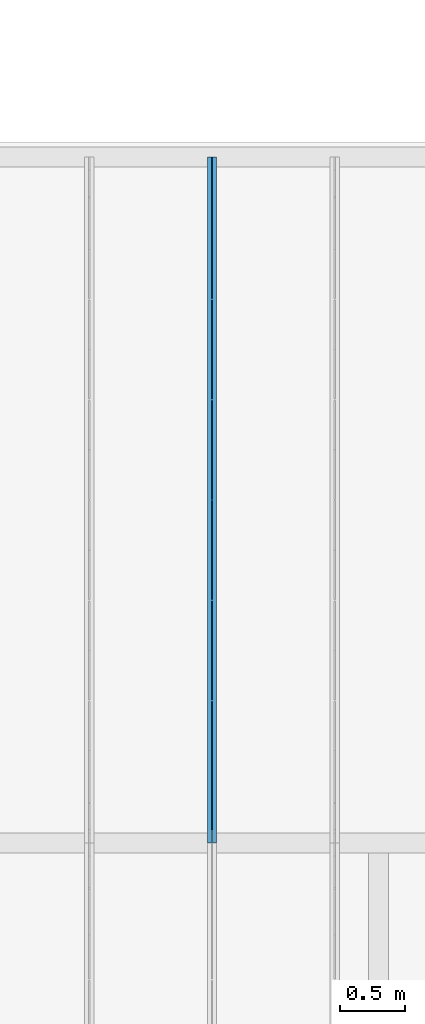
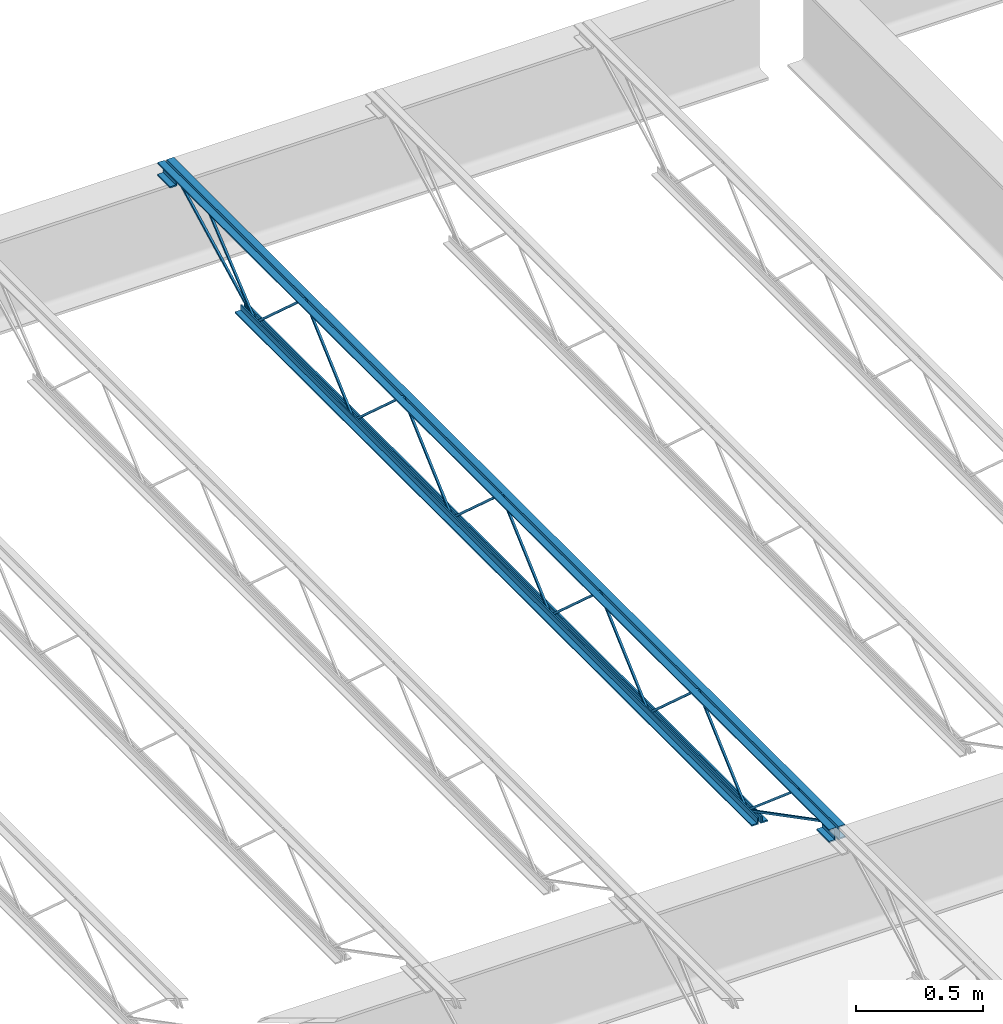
# One storey, part 69 of 75: 1 beam.
"""IFC2X3 building model written with IfcOpenShell, lengths in metres."""

from ifc_helpers import new_model, entity, si_unit, converted_unit, frame, origin, place, context, project, spatial, face_set, surface_model, element, save


model = new_model("IFC2X3")

# Units and contexts
model_context = context("Model", 3, precision=1e-09, world=origin())
plan_context = context("Plan", 3, precision=1e-09, world=origin())
ifc_project = project(units=[si_unit("LENGTHUNIT", "METRE"), si_unit("AREAUNIT", "SQUARE_METRE"), si_unit("VOLUMEUNIT", "CUBIC_METRE"), converted_unit("PLANEANGLEUNIT", "DEGREE", entity("IfcRatioMeasure", 0.01745329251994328), si_unit("PLANEANGLEUNIT", "RADIAN"), dimensions=[0, 0, 0, 0, 0, 0, 0]), si_unit("TIMEUNIT", "SECOND")], contexts=[model_context, plan_context])

# Site, building, storey
site_placement = place(None, origin())
site = spatial("IfcSite", under=ifc_project, at=site_placement, Name="Default", CompositionType="ELEMENT")
building_placement = place(site_placement, origin())
building = spatial("IfcBuilding", under=site, at=building_placement, CompositionType="ELEMENT")
storey_placement = place(building_placement, origin())
storey = spatial("IfcBuildingStorey", under=building, at=storey_placement, Name="First Floor", CompositionType="ELEMENT", Elevation=-3.531500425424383e-13)

# Beam
beam_placement = place(storey_placement, frame((-10.16674062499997, 44.78049999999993, 4.112000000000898), z_axis=(0.0, 0.0, 1.0), x_axis=(-1.0, 0.0, 0.0)))
element("IfcBeam", 1, at=beam_placement, inside=storey, Name="M_K-Series Bar Joist-Rod Web:14K1:14K1", ObjectType="M_K-Series Bar Joist-Rod Web:14K1", context=model_context, shape_type="SurfaceModel", body=[
    surface_model("IfcFaceBasedSurfaceModel", [(-0.0320000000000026, -2.266000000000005, 0.01110000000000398), (-0.04150000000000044, -2.266000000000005, 0.01110000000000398), (-0.04150000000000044, -2.266000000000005, 0.001600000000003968), (-0.0320000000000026, -2.266000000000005, 0.001600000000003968), (-0.04150000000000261, -2.264645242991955, 0.01110000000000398), (-0.0320000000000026, -2.264645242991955, 0.01110000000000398), (-0.04150000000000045, -2.261004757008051, 0.001600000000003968), (-0.04149999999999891, -1.878854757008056, 0.3449000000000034), (-0.04149999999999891, -1.876145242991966, 0.3449000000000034), (-0.04149999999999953, -1.493995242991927, 0.001600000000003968), (-0.04149999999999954, -1.489000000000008, 0.001600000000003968), (-0.04149999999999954, -1.489000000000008, 0.01110000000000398), (-0.04149999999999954, -1.490354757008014, 0.01110000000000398), (-0.04150000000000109, -1.872504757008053, 0.3544000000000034), (-0.04150000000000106, -1.88249524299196, 0.3544000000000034), (-0.03200000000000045, -2.261004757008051, 0.001600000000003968), (-0.03200000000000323, -1.878854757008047, 0.3449000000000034), (-0.03200000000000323, -1.876145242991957, 0.3449000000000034), (-0.0320000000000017, -1.493995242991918, 0.001600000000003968), (-0.03200000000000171, -1.489000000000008, 0.001600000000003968), (-0.03200000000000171, -1.489000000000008, 0.01110000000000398), (-0.0320000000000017, -1.490354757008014, 0.01110000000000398), (-0.03200000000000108, -1.872504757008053, 0.3544000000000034), (-0.03200000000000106, -1.88249524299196, 0.3544000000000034), (-0.03200000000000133, -3.043000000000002, 0.01110000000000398), (-0.04149999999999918, -3.043000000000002, 0.01110000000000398), (-0.04149999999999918, -3.043000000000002, 0.001600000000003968), (-0.03200000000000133, -3.043000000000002, 0.001600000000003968), (-0.04150000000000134, -3.041645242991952, 0.01110000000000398), (-0.03200000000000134, -3.041645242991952, 0.01110000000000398), (-0.04149999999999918, -3.038004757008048, 0.001600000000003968), (-0.0414999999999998, -2.655854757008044, 0.3449000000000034), (-0.04149999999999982, -2.653145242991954, 0.3449000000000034), (-0.04150000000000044, -2.270995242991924, 0.001600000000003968), (-0.04149999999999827, -2.266000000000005, 0.01110000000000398), (-0.04149999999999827, -2.267354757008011, 0.01110000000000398), (-0.04149999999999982, -2.649504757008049, 0.3544000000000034), (-0.0414999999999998, -2.659495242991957, 0.3544000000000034), (-0.03199999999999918, -3.038004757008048, 0.001600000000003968), (-0.03200000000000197, -2.655854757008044, 0.3449000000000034), (-0.03200000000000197, -2.653145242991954, 0.3449000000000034), (-0.03200000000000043, -2.270995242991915, 0.001600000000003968), (-0.03200000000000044, -2.266000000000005, 0.001600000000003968), (-0.0320000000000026, -2.267354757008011, 0.01110000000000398), (-0.03200000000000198, -2.649504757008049, 0.3544000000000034), (-0.03200000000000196, -2.659495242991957, 0.3544000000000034), (-0.03200000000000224, -3.819999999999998, 0.01110000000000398), (-0.04150000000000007, -3.819999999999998, 0.01110000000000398), (-0.04150000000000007, -3.819999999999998, 0.001600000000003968), (-0.03200000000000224, -3.819999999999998, 0.001600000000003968), (-0.04150000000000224, -3.818645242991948, 0.01110000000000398), (-0.03200000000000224, -3.818645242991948, 0.01110000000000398), (-0.04150000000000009, -3.815004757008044, 0.001600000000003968), (-0.0415000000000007, -3.432854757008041, 0.3449000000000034), (-0.04150000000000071, -3.43014524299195, 0.3449000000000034), (-0.04149999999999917, -3.047995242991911, 0.001600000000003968), (-0.04149999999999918, -3.042999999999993, 0.001600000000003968), (-0.04149999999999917, -3.044354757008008, 0.01110000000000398), (-0.04150000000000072, -3.426504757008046, 0.3544000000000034), (-0.0415000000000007, -3.436495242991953, 0.3544000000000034), (-0.03200000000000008, -3.815004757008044, 0.001600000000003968), (-0.03200000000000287, -3.432854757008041, 0.3449000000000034), (-0.03200000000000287, -3.43014524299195, 0.3449000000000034), (-0.03200000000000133, -3.047995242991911, 0.001600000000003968), (-0.03200000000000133, -3.042999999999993, 0.01110000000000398), (-0.03200000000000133, -3.044354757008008, 0.01110000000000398), (-0.03200000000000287, -3.426504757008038, 0.3544000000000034), (-0.03200000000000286, -3.436495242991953, 0.3544000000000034), (-0.03200000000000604, -1.489000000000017, 0.01109999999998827), (-0.04150000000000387, -1.489000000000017, 0.01109999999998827), (-0.04150000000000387, -1.489000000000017, 0.001599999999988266), (-0.03200000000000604, -1.489000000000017, 0.001599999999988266), (-0.04150000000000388, -1.487645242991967, 0.01109999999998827), (-0.03200000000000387, -1.487645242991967, 0.01109999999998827), (-0.04150000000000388, -1.484004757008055, 0.001599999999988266), (-0.04150000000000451, -1.101854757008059, 0.3448999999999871), (-0.04150000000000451, -1.099145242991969, 0.3448999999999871), (-0.04150000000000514, -0.7169952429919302, 0.001599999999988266), (-0.04150000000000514, -0.7120000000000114, 0.001599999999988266), (-0.04150000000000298, -0.7120000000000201, 0.01109999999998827), (-0.04150000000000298, -0.7133547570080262, 0.01109999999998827), (-0.04150000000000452, -1.095504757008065, 0.3543999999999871), (-0.0415000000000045, -1.105495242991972, 0.3543999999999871), (-0.03200000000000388, -1.484004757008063, 0.001599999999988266), (-0.0320000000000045, -1.101854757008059, 0.3448999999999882), (-0.0320000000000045, -1.099145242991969, 0.3448999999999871), (-0.03200000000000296, -0.7169952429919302, 0.001599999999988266), (-0.03200000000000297, -0.7120000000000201, 0.001599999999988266), (-0.0320000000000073, -0.7120000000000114, 0.01109999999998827), (-0.03200000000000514, -0.7133547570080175, 0.01109999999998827), (-0.03200000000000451, -1.095504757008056, 0.3543999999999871), (-0.0320000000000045, -1.105495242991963, 0.3543999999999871), (-0.03200000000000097, -4.596999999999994, 0.01110000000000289), (-0.04149999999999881, -4.596999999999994, 0.01110000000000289), (-0.04149999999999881, -4.596999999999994, 0.001600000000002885), (-0.03200000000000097, -4.596999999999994, 0.001600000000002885), (-0.04150000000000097, -4.595645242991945, 0.01110000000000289), (-0.03200000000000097, -4.595645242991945, 0.01110000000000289), (-0.04149999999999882, -4.592004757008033, 0.001600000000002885), (-0.04149999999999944, -4.209854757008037, 0.3449000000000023), (-0.04149999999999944, -4.207145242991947, 0.3449000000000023), (-0.04150000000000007, -3.824995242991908, 0.001600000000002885), (-0.04150000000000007, -3.819999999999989, 0.001600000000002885), (-0.04149999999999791, -3.819999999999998, 0.01110000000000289), (-0.04149999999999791, -3.821354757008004, 0.01110000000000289), (-0.04149999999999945, -4.203504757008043, 0.3544000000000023), (-0.04149999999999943, -4.21349524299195, 0.3544000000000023), (-0.03199999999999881, -4.592004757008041, 0.001600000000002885), (-0.0320000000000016, -4.209854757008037, 0.3449000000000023), (-0.0320000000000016, -4.207145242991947, 0.3449000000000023), (-0.03200000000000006, -3.824995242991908, 0.001600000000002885), (-0.03200000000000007, -3.819999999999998, 0.001600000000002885), (-0.03200000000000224, -3.819999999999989, 0.01110000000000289), (-0.03200000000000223, -3.821354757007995, 0.01110000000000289), (-0.03200000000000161, -4.203504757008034, 0.3544000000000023), (-0.03200000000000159, -4.21349524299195, 0.3544000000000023), (-0.04150000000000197, 0.0, 0.3559999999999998), (-0.07350000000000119, 0.0, 0.3559999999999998), (-0.07350000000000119, 0.0, 0.349499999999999), (-0.04800000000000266, 0.0, 0.349499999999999), (-0.04800000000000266, 0.0, 0.3239999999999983), (-0.04150000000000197, 0.0, 0.3239999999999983), (-0.03200000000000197, 0.0, 0.3559999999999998), (-0.03200000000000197, 0.0, 0.3239999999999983), (-0.02550000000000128, 0.0, 0.3239999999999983), (-0.02550000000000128, 0.0, 0.349499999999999), (0.0, 0.0, 0.349499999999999), (0.0, 0.0, 0.3559999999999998), (-0.04150000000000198, -5.308999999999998, 0.3559999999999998), (-0.0735000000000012, -5.308999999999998, 0.3559999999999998), (-0.0735000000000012, -5.308999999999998, 0.349499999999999), (-0.04800000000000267, -5.308999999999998, 0.349499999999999), (-0.04800000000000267, -5.308999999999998, 0.3239999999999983), (-0.04150000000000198, -5.308999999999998, 0.3239999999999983), (-0.03200000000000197, -5.308999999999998, 0.3559999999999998), (-0.03200000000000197, -5.308999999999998, 0.3239999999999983), (-0.02550000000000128, -5.308999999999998, 0.3239999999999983), (-0.02550000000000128, -5.308999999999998, 0.349499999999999), (0.0, -5.308999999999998, 0.349499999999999), (0.0, -5.308999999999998, 0.3559999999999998), (-0.03200000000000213, -5.209000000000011, 0.2924999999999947), (0.0, -5.209000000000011, 0.2924999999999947), (0.0, -5.209000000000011, 0.2989999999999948), (-0.02550000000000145, -5.209000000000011, 0.2989999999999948), (-0.02550000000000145, -5.209000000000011, 0.3239999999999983), (-0.03200000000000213, -5.209000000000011, 0.3239999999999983), (-0.07350000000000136, -5.209000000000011, 0.2924999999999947), (-0.04150000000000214, -5.209000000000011, 0.2924999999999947), (-0.04150000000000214, -5.209000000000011, 0.3239999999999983), (-0.04800000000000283, -5.209000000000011, 0.3239999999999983), (-0.04800000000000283, -5.209000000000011, 0.2989999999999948), (-0.07350000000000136, -5.209000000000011, 0.2989999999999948), (-0.03200000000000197, -5.308999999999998, 0.2924999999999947), (0.0, -5.308999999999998, 0.2924999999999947), (0.0, -5.308999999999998, 0.2989999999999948), (-0.02550000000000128, -5.308999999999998, 0.2989999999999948), (-0.0735000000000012, -5.308999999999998, 0.2924999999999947), (-0.04150000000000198, -5.308999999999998, 0.2924999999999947), (-0.04800000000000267, -5.308999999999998, 0.2989999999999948), (-0.0735000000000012, -5.308999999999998, 0.2989999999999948), (-0.04150000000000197, 0.0, 0.2924999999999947), (-0.04800000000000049, 0.0, 0.3239999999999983), (-0.04800000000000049, 0.0, 0.2989999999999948), (-0.07350000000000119, 0.0, 0.2989999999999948), (-0.07350000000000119, 0.0, 0.2924999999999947), (-0.03200000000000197, 0.0, 0.2924999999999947), (0.0, 0.0, 0.2924999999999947), (0.0, 0.0, 0.2989999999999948), (-0.02550000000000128, 0.0, 0.2989999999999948), (-0.04150000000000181, -0.0999999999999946, 0.2924999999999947), (-0.04150000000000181, -0.0999999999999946, 0.3239999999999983), (-0.04800000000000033, -0.0999999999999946, 0.3239999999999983), (-0.04800000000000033, -0.0999999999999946, 0.2989999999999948), (-0.07350000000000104, -0.0999999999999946, 0.2989999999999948), (-0.07350000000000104, -0.0999999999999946, 0.2924999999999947), (-0.03200000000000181, -0.0999999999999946, 0.2924999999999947), (0.0, -0.0999999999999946, 0.2924999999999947), (0.0, -0.0999999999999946, 0.2989999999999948), (-0.02550000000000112, -0.0999999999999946, 0.2989999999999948), (-0.02550000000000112, -0.0999999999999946, 0.3239999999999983), (-0.03200000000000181, -0.0999999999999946, 0.3239999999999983), (-0.04150000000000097, -0.6119999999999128, 0.0), (-0.04150000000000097, -0.6119999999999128, 0.03199999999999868), (-0.04800000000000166, -0.6119999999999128, 0.03199999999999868), (-0.04800000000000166, -0.6119999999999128, 0.006499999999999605), (-0.07350000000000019, -0.6119999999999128, 0.006499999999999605), (-0.07350000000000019, -0.6119999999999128, 0.0), (-0.03200000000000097, -0.6119999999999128, 0.0), (0.0, -0.6119999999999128, 0.0), (0.0, -0.6119999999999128, 0.006499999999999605), (-0.02550000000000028, -0.6119999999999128, 0.006499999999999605), (-0.02550000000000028, -0.6119999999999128, 0.03199999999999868), (-0.03200000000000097, -0.6119999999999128, 0.03199999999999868), (-0.04150000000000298, -4.696999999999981, 0.0), (-0.04150000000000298, -4.696999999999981, 0.03199999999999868), (-0.04800000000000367, -4.696999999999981, 0.03199999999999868), (-0.04800000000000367, -4.696999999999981, 0.006499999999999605), (-0.0735000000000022, -4.696999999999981, 0.006499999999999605), (-0.0735000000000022, -4.696999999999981, 0.0), (-0.03200000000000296, -4.696999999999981, 0.0), (0.0, -4.696999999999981, 0.0), (0.0, -4.696999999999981, 0.006499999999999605), (-0.02550000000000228, -4.696999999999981, 0.006499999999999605), (-0.02550000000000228, -4.696999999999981, 0.03199999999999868), (-0.03200000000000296, -4.696999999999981, 0.03199999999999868), (-0.03199999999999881, -4.594811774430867, 0.01056594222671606), (-0.04149999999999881, -4.594811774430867, 0.01056594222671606), (-0.04149999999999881, -4.599188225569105, 0.002134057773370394), (-0.03200000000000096, -4.599188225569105, 0.002134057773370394), (-0.0319999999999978, -5.207840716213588, 0.3287499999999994), (-0.0319999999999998, -5.308999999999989, 0.3287499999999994), (-0.03200000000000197, -5.308999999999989, 0.3192499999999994), (-0.03200000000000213, -5.210159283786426, 0.3192499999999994), (-0.04149999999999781, -5.210159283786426, 0.3192499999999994), (-0.04149999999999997, -5.207840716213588, 0.3287499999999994), (-0.04149999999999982, -5.308999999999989, 0.3287499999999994), (-0.04149999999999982, -5.308999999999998, 0.3192499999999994), (-0.03200000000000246, -5.005457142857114, 0.341700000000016), (-0.0415000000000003, -5.005457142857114, 0.341700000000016), (-0.0415000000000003, -5.005457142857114, 0.332200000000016), (-0.03200000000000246, -5.005457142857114, 0.332200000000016), (-0.04150000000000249, -4.991034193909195, 0.341700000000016), (-0.03200000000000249, -4.991034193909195, 0.341700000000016), (-0.04150000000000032, -4.99448009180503, 0.332200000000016), (-0.0414999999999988, -4.600045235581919, 0.002704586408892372), (-0.04150000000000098, -4.593954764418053, 0.009995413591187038), (-0.03200000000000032, -4.99448009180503, 0.332200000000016), (-0.03200000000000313, -4.600045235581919, 0.002704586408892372), (-0.03199999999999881, -4.593954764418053, 0.009995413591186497), (-0.03199999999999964, -0.09781177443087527, 0.3197840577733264), (-0.03200000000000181, -0.1021882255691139, 0.3282159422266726), (-0.04150000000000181, -0.1021882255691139, 0.3282159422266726), (-0.04149999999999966, -0.09781177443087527, 0.3197840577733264), (-0.03200000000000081, -0.7098117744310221, 0.002134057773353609), (-0.03200000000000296, -0.7141882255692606, 0.01056594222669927), (-0.04150000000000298, -0.7141882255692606, 0.01056594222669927), (-0.04150000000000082, -0.7098117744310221, 0.002134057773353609), (-0.0319999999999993, -0.3059055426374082, 0.3460340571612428), (-0.03200000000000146, -0.3120658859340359, 0.3532659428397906), (-0.04150000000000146, -0.3120658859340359, 0.3532659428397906), (-0.04149999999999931, -0.3059055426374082, 0.3460340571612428), (-0.03200000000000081, -0.7089198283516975, 0.002734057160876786), (-0.03200000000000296, -0.7150801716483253, 0.009965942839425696), (-0.04150000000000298, -0.7150801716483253, 0.009965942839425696), (-0.04150000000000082, -0.7089198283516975, 0.002734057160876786)], [face_set([[[0, 1, 2, 3]], [[1, 4, 5, 0]], [[2, 6, 7, 8, 9, 10, 11, 12, 13, 14, 4, 1]], [[3, 2, 6, 15]], [[0, 3, 15, 16, 17, 18, 19, 20, 21, 22, 23, 5]], [[4, 5, 23, 14]], [[15, 16, 7, 6]], [[14, 13, 22, 23]], [[16, 7, 8, 17]], [[13, 12, 21, 22]], [[17, 8, 9, 18]], [[20, 11, 10, 19]], [[12, 11, 20, 21]], [[18, 9, 10, 19]]]), face_set([[[24, 25, 26, 27]], [[25, 28, 29, 24]], [[26, 30, 31, 32, 33, 2, 34, 35, 36, 37, 28, 25]], [[27, 26, 30, 38]], [[24, 27, 38, 39, 40, 41, 42, 0, 43, 44, 45, 29]], [[28, 29, 45, 37]], [[38, 39, 31, 30]], [[37, 36, 44, 45]], [[39, 31, 32, 40]], [[36, 35, 43, 44]], [[40, 32, 33, 41]], [[0, 34, 2, 42]], [[35, 34, 0, 43]], [[41, 33, 2, 42]]]), face_set([[[46, 47, 48, 49]], [[47, 50, 51, 46]], [[48, 52, 53, 54, 55, 56, 25, 57, 58, 59, 50, 47]], [[49, 48, 52, 60]], [[46, 49, 60, 61, 62, 63, 27, 64, 65, 66, 67, 51]], [[50, 51, 67, 59]], [[60, 61, 53, 52]], [[59, 58, 66, 67]], [[61, 53, 54, 62]], [[58, 57, 65, 66]], [[62, 54, 55, 63]], [[64, 25, 56, 27]], [[57, 25, 64, 65]], [[63, 55, 56, 27]]]), face_set([[[68, 69, 70, 71]], [[69, 72, 73, 68]], [[70, 74, 75, 76, 77, 78, 79, 80, 81, 82, 72, 69]], [[71, 70, 74, 83]], [[68, 71, 83, 84, 85, 86, 87, 88, 89, 90, 91, 73]], [[72, 73, 91, 82]], [[83, 84, 75, 74]], [[82, 81, 90, 91]], [[84, 75, 76, 85]], [[81, 80, 89, 90]], [[85, 76, 77, 86]], [[88, 79, 78, 87]], [[80, 79, 88, 89]], [[86, 77, 78, 87]]]), face_set([[[92, 93, 94, 95]], [[93, 96, 97, 92]], [[94, 98, 99, 100, 101, 102, 103, 104, 105, 106, 96, 93]], [[95, 94, 98, 107]], [[92, 95, 107, 108, 109, 110, 111, 112, 113, 114, 115, 97]], [[96, 97, 115, 106]], [[107, 108, 99, 98]], [[106, 105, 114, 115]], [[108, 99, 100, 109]], [[105, 104, 113, 114]], [[109, 100, 101, 110]], [[112, 103, 102, 111]], [[104, 103, 112, 113]], [[110, 101, 102, 111]]]), face_set([[[116, 117, 118, 119, 120, 121]], [[122, 123, 124, 125, 126, 127]], [[128, 129, 130, 131, 132, 133]], [[134, 135, 136, 137, 138, 139]], [[121, 116, 128, 133]], [[120, 121, 133, 132]], [[119, 131, 132, 120]], [[118, 119, 131, 130]], [[117, 129, 130, 118]], [[116, 128, 129, 117]], [[127, 139, 134, 122]], [[126, 127, 139, 138]], [[125, 126, 138, 137]], [[124, 125, 137, 136]], [[123, 124, 136, 135]], [[122, 134, 135, 123]]]), face_set([[[140, 141, 142, 143, 144, 145]], [[146, 147, 148, 149, 150, 151]], [[152, 153, 154, 155, 136, 135]], [[156, 157, 133, 132, 158, 159]], [[145, 135, 152, 140]], [[144, 136, 135, 145]], [[143, 144, 136, 155]], [[142, 154, 155, 143]], [[141, 142, 154, 153]], [[140, 141, 153, 152]], [[151, 159, 156, 146]], [[150, 158, 159, 151]], [[149, 132, 158, 150]], [[148, 133, 132, 149]], [[147, 148, 133, 157]], [[146, 147, 157, 156]]]), face_set([[[160, 121, 161, 162, 163, 164]], [[165, 166, 167, 168, 124, 123]], [[169, 170, 171, 172, 173, 174]], [[175, 176, 177, 178, 179, 180]], [[164, 160, 169, 174]], [[163, 173, 174, 164]], [[162, 172, 173, 163]], [[161, 171, 172, 162]], [[121, 170, 171, 161]], [[160, 121, 170, 169]], [[123, 180, 175, 165]], [[124, 179, 180, 123]], [[168, 124, 179, 178]], [[167, 177, 178, 168]], [[166, 167, 177, 176]], [[165, 166, 176, 175]]]), face_set([[[181, 182, 183, 184, 185, 186]], [[187, 188, 189, 190, 191, 192]], [[193, 194, 195, 196, 197, 198]], [[199, 200, 201, 202, 203, 204]], [[186, 181, 193, 198]], [[185, 197, 198, 186]], [[184, 196, 197, 185]], [[183, 195, 196, 184]], [[182, 194, 195, 183]], [[181, 182, 194, 193]], [[192, 204, 199, 187]], [[191, 203, 204, 192]], [[190, 191, 203, 202]], [[189, 201, 202, 190]], [[188, 189, 201, 200]], [[187, 188, 200, 199]]]), face_set([[[205, 206, 207, 208]], [[208, 205, 209, 210, 211, 212]], [[207, 208, 212, 213]], [[206, 214, 215, 216, 213, 207]], [[205, 209, 214, 206]], [[210, 215, 216, 211]], [[213, 212, 211, 216]], [[209, 210, 215, 214]]]), face_set([[[217, 218, 219, 220]], [[218, 221, 222, 217]], [[219, 223, 224, 225, 221, 218]], [[220, 219, 223, 226]], [[217, 220, 226, 227, 228, 222]], [[228, 225, 224, 227]], [[221, 225, 228, 222]], [[226, 223, 224, 227]]]), face_set([[[229, 230, 231, 232]], [[233, 234, 235, 236]], [[232, 236, 233, 229]], [[231, 235, 236, 232]], [[230, 231, 235, 234]], [[229, 230, 234, 233]]]), face_set([[[237, 238, 239, 240]], [[241, 242, 243, 244]], [[240, 244, 241, 237]], [[239, 243, 244, 240]], [[238, 239, 243, 242]], [[237, 238, 242, 241]]])]),
])

save(model, "model.ifc")
